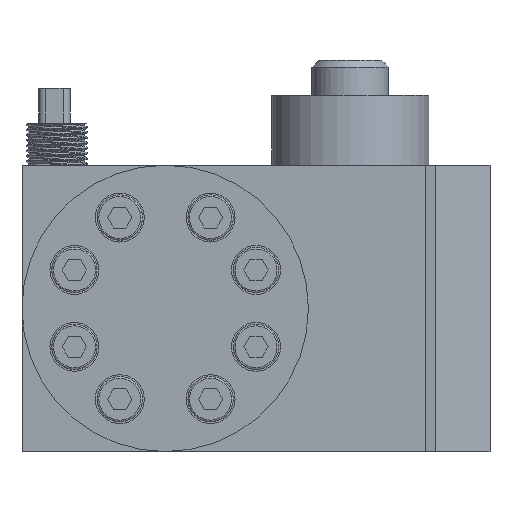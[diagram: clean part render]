
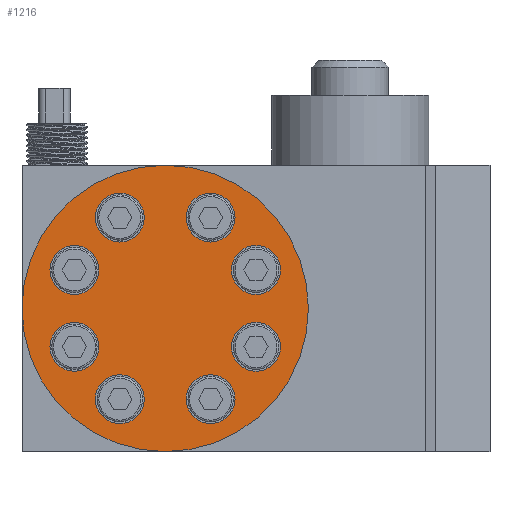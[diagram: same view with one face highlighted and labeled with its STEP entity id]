
A CAD part, left-side view. The second image highlights one B-rep face of the part: STEP entity #1216.
In plain terms, the highlighted planar face has unit normal (-1, 0, 0).
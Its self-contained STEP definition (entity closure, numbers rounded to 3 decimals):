
#1216=ADVANCED_FACE('',(#2302,#2303,#2304,#2305,#2306,#2307,#2308,#2309,
#2310),#1747,.F.);
#1747=PLANE('',#11007);
#2302=FACE_BOUND('',#3142,.T.);
#2303=FACE_BOUND('',#3143,.T.);
#2304=FACE_BOUND('',#3144,.T.);
#2305=FACE_BOUND('',#3145,.T.);
#2306=FACE_BOUND('',#3146,.T.);
#2307=FACE_BOUND('',#3147,.T.);
#2308=FACE_BOUND('',#3148,.T.);
#2309=FACE_BOUND('',#3149,.T.);
#2310=FACE_BOUND('',#3150,.T.);
#3142=EDGE_LOOP('',(#5387));
#3143=EDGE_LOOP('',(#5388));
#3144=EDGE_LOOP('',(#5389));
#3145=EDGE_LOOP('',(#5390));
#3146=EDGE_LOOP('',(#5391));
#3147=EDGE_LOOP('',(#5392));
#3148=EDGE_LOOP('',(#5393));
#3149=EDGE_LOOP('',(#5394));
#3150=EDGE_LOOP('',(#5395));
#4028=CIRCLE('',#10996,41.);
#4030=CIRCLE('',#10999,7.);
#4031=CIRCLE('',#11000,7.);
#4032=CIRCLE('',#11001,7.);
#4033=CIRCLE('',#11002,7.);
#4034=CIRCLE('',#11003,7.);
#4035=CIRCLE('',#11004,7.);
#4036=CIRCLE('',#11005,7.);
#4037=CIRCLE('',#11006,7.);
#5387=ORIENTED_EDGE('',*,*,#8287,.T.);
#5388=ORIENTED_EDGE('',*,*,#8288,.T.);
#5389=ORIENTED_EDGE('',*,*,#8289,.T.);
#5390=ORIENTED_EDGE('',*,*,#8290,.T.);
#5391=ORIENTED_EDGE('',*,*,#8291,.T.);
#5392=ORIENTED_EDGE('',*,*,#8292,.T.);
#5393=ORIENTED_EDGE('',*,*,#8293,.T.);
#5394=ORIENTED_EDGE('',*,*,#8294,.T.);
#5395=ORIENTED_EDGE('',*,*,#8285,.F.);
#7192=VERTEX_POINT('',#15914);
#7194=VERTEX_POINT('',#15919);
#7195=VERTEX_POINT('',#15921);
#7196=VERTEX_POINT('',#15923);
#7197=VERTEX_POINT('',#15925);
#7198=VERTEX_POINT('',#15927);
#7199=VERTEX_POINT('',#15929);
#7200=VERTEX_POINT('',#15931);
#7201=VERTEX_POINT('',#15933);
#8285=EDGE_CURVE('',#7192,#7192,#4028,.T.);
#8287=EDGE_CURVE('',#7194,#7194,#4030,.T.);
#8288=EDGE_CURVE('',#7195,#7195,#4031,.T.);
#8289=EDGE_CURVE('',#7196,#7196,#4032,.T.);
#8290=EDGE_CURVE('',#7197,#7197,#4033,.T.);
#8291=EDGE_CURVE('',#7198,#7198,#4034,.T.);
#8292=EDGE_CURVE('',#7199,#7199,#4035,.T.);
#8293=EDGE_CURVE('',#7200,#7200,#4036,.T.);
#8294=EDGE_CURVE('',#7201,#7201,#4037,.T.);
#10996=AXIS2_PLACEMENT_3D('',#15913,#12940,#12941);
#10999=AXIS2_PLACEMENT_3D('',#15918,#12946,#12947);
#11000=AXIS2_PLACEMENT_3D('',#15920,#12948,#12949);
#11001=AXIS2_PLACEMENT_3D('',#15922,#12950,#12951);
#11002=AXIS2_PLACEMENT_3D('',#15924,#12952,#12953);
#11003=AXIS2_PLACEMENT_3D('',#15926,#12954,#12955);
#11004=AXIS2_PLACEMENT_3D('',#15928,#12956,#12957);
#11005=AXIS2_PLACEMENT_3D('',#15930,#12958,#12959);
#11006=AXIS2_PLACEMENT_3D('',#15932,#12960,#12961);
#11007=AXIS2_PLACEMENT_3D('',#15934,#12962,#12963);
#12940=DIRECTION('',(1.,0.,0.));
#12941=DIRECTION('',(0.,1.,0.));
#12946=DIRECTION('',(1.,0.,0.));
#12947=DIRECTION('',(0.,0.,-1.));
#12948=DIRECTION('',(1.,0.,0.));
#12949=DIRECTION('',(0.,0.,-1.));
#12950=DIRECTION('',(1.,0.,0.));
#12951=DIRECTION('',(0.,0.,-1.));
#12952=DIRECTION('',(1.,0.,0.));
#12953=DIRECTION('',(0.,0.,-1.));
#12954=DIRECTION('',(1.,0.,0.));
#12955=DIRECTION('',(0.,0.,-1.));
#12956=DIRECTION('',(1.,0.,0.));
#12957=DIRECTION('',(0.,0.,-1.));
#12958=DIRECTION('',(1.,0.,0.));
#12959=DIRECTION('',(0.,0.,-1.));
#12960=DIRECTION('',(1.,0.,0.));
#12961=DIRECTION('',(0.,0.,-1.));
#12962=DIRECTION('',(1.,0.,0.));
#12963=DIRECTION('',(0.,0.,-1.));
#15913=CARTESIAN_POINT('',(-92.,47.,41.));
#15914=CARTESIAN_POINT('',(-92.,88.,41.));
#15918=CARTESIAN_POINT('',(-92.,73.,30.));
#15919=CARTESIAN_POINT('',(-92.,73.,23.));
#15920=CARTESIAN_POINT('',(-92.,21.,30.));
#15921=CARTESIAN_POINT('',(-92.,21.,23.));
#15922=CARTESIAN_POINT('',(-92.,21.,52.));
#15923=CARTESIAN_POINT('',(-92.,21.,45.));
#15924=CARTESIAN_POINT('',(-92.,73.,52.));
#15925=CARTESIAN_POINT('',(-92.,73.,45.));
#15926=CARTESIAN_POINT('',(-92.,60.,15.));
#15927=CARTESIAN_POINT('',(-92.,60.,8.));
#15928=CARTESIAN_POINT('',(-92.,34.,15.));
#15929=CARTESIAN_POINT('',(-92.,34.,8.));
#15930=CARTESIAN_POINT('',(-92.,34.,67.));
#15931=CARTESIAN_POINT('',(-92.,34.,60.));
#15932=CARTESIAN_POINT('',(-92.,60.,67.));
#15933=CARTESIAN_POINT('',(-92.,60.,60.));
#15934=CARTESIAN_POINT('',(-92.,47.,41.));
